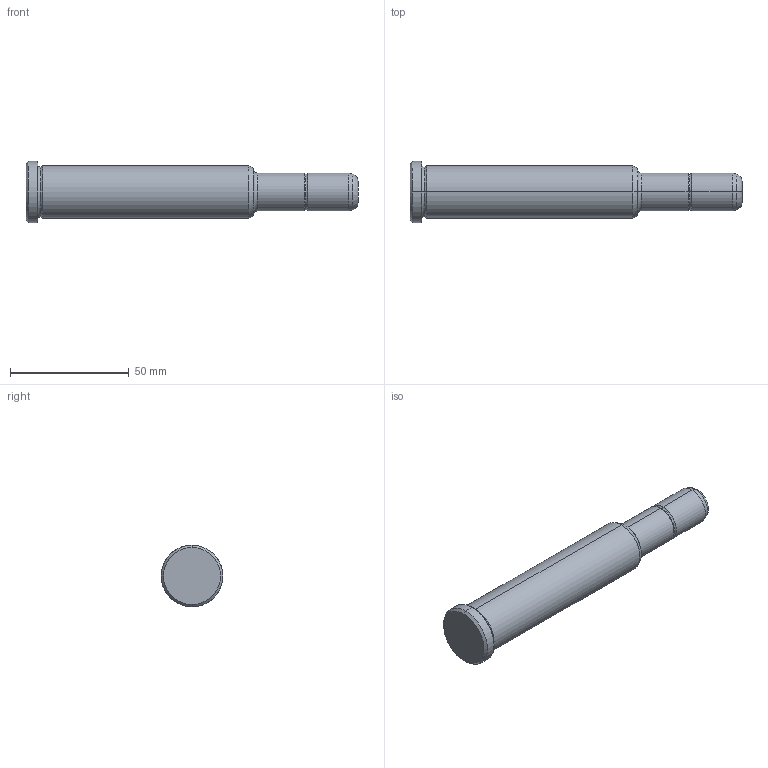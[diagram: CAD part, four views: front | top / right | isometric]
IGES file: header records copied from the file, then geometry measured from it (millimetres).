
Start section: START RECORD GO HERE.
Global section: file name: 351-16X96X140.igs; native system: DASSAULT SYSTEMES CATIA V5 R20 - www.3ds.com; preprocessor: CATIA Version 5 Release 20 ; author: Utente; organization: NB04-ASUS; date: 20210818.144443; units: millimetre
Bounding box: 140 x 26 x 26 mm (x, y, z)
Surface area: 9774.6 mm2 (no closed solid volume)
Topology: 0 solids, 0 shells, 30 faces, 172 edges, 172 vertices
Faces by surface type: revolution 26, plane 4
